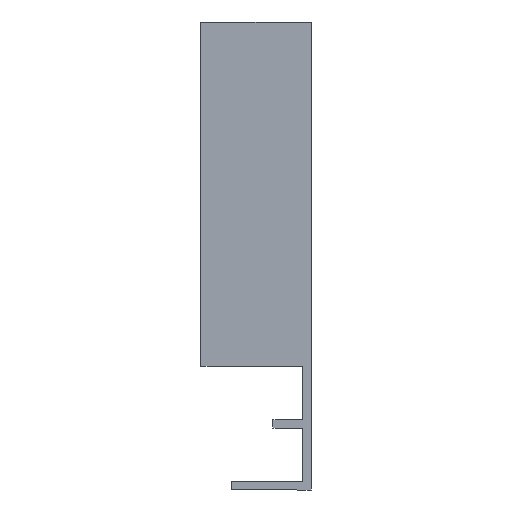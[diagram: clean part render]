
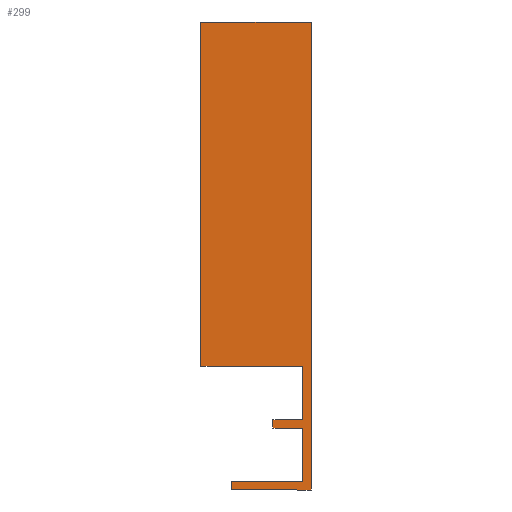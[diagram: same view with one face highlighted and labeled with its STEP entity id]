
A CAD part, left-side view. The second image highlights one B-rep face of the part: STEP entity #299.
In plain terms, the highlighted planar face has unit normal (-1, 0, 0).
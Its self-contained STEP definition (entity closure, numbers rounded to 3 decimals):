
#3 = VECTOR ( 'NONE', #389, 1000. ) ;
#5 = LINE ( 'NONE', #376, #3 ) ;
#12 = VECTOR ( 'NONE', #379, 1000. ) ;
#17 = LINE ( 'NONE', #375, #12 ) ;
#21 = VECTOR ( 'NONE', #368, 1000. ) ;
#22 = LINE ( 'NONE', #367, #21 ) ;
#23 = VECTOR ( 'NONE', #366, 1000. ) ;
#24 = LINE ( 'NONE', #365, #23 ) ;
#26 = LINE ( 'NONE', #357, #35 ) ;
#31 = VECTOR ( 'NONE', #356, 1000. ) ;
#32 = LINE ( 'NONE', #355, #31 ) ;
#33 = VECTOR ( 'NONE', #354, 1000. ) ;
#34 = LINE ( 'NONE', #353, #33 ) ;
#35 = VECTOR ( 'NONE', #364, 1000. ) ;
#36 = VECTOR ( 'NONE', #352, 1000. ) ;
#41 = LINE ( 'NONE', #348, #36 ) ;
#45 = VECTOR ( 'NONE', #342, 1000. ) ;
#51 = LINE ( 'NONE', #339, #45 ) ;
#68 = EDGE_LOOP ( 'NONE', ( #142, #113, #119, #118, #117, #111, #78, #79, #80, #81, #82, #83 ) ) ;
#78 = ORIENTED_EDGE ( 'NONE', *, *, #238, .T. ) ;
#79 = ORIENTED_EDGE ( 'NONE', *, *, #284, .T. ) ;
#80 = ORIENTED_EDGE ( 'NONE', *, *, #259, .T. ) ;
#81 = ORIENTED_EDGE ( 'NONE', *, *, #251, .T. ) ;
#82 = ORIENTED_EDGE ( 'NONE', *, *, #221, .T. ) ;
#83 = ORIENTED_EDGE ( 'NONE', *, *, #282, .T. ) ;
#111 = ORIENTED_EDGE ( 'NONE', *, *, #237, .T. ) ;
#113 = ORIENTED_EDGE ( 'NONE', *, *, #228, .T. ) ;
#117 = ORIENTED_EDGE ( 'NONE', *, *, #230, .T. ) ;
#118 = ORIENTED_EDGE ( 'NONE', *, *, #231, .T. ) ;
#119 = ORIENTED_EDGE ( 'NONE', *, *, #278, .T. ) ;
#142 = ORIENTED_EDGE ( 'NONE', *, *, #241, .T. ) ;
#177 = LINE ( 'NONE', #414, #178 ) ;
#178 = VECTOR ( 'NONE', #415, 1000. ) ;
#181 = LINE ( 'NONE', #418, #182 ) ;
#182 = VECTOR ( 'NONE', #419, 1000. ) ;
#185 = LINE ( 'NONE', #423, #186 ) ;
#186 = VECTOR ( 'NONE', #424, 1000. ) ;
#199 = FACE_OUTER_BOUND ( 'NONE', #68, .T. ) ;
#221 = EDGE_CURVE ( 'NONE', #332, #316, #51, .T. ) ;
#228 = EDGE_CURVE ( 'NONE', #334, #308, #41, .T. ) ;
#230 = EDGE_CURVE ( 'NONE', #306, #323, #34, .T. ) ;
#231 = EDGE_CURVE ( 'NONE', #330, #306, #32, .T. ) ;
#237 = EDGE_CURVE ( 'NONE', #323, #321, #26, .T. ) ;
#238 = EDGE_CURVE ( 'NONE', #321, #319, #24, .T. ) ;
#241 = EDGE_CURVE ( 'NONE', #336, #334, #22, .T. ) ;
#251 = EDGE_CURVE ( 'NONE', #313, #332, #17, .T. ) ;
#259 = EDGE_CURVE ( 'NONE', #318, #313, #5, .T. ) ;
#265 = AXIS2_PLACEMENT_3D ( 'NONE', #469, #475, #476 ) ;
#278 = EDGE_CURVE ( 'NONE', #308, #330, #177, .T. ) ;
#282 = EDGE_CURVE ( 'NONE', #316, #336, #181, .T. ) ;
#284 = EDGE_CURVE ( 'NONE', #319, #318, #185, .T. ) ;
#299 = ADVANCED_FACE ( 'NONE', ( #199 ), #466, .T. ) ;
#306 = VERTEX_POINT ( 'NONE', #485 ) ;
#308 = VERTEX_POINT ( 'NONE', #490 ) ;
#313 = VERTEX_POINT ( 'NONE', #493 ) ;
#316 = VERTEX_POINT ( 'NONE', #496 ) ;
#318 = VERTEX_POINT ( 'NONE', #497 ) ;
#319 = VERTEX_POINT ( 'NONE', #498 ) ;
#321 = VERTEX_POINT ( 'NONE', #500 ) ;
#323 = VERTEX_POINT ( 'NONE', #502 ) ;
#330 = VERTEX_POINT ( 'NONE', #509 ) ;
#332 = VERTEX_POINT ( 'NONE', #511 ) ;
#334 = VERTEX_POINT ( 'NONE', #513 ) ;
#336 = VERTEX_POINT ( 'NONE', #515 ) ;
#339 = CARTESIAN_POINT ( 'NONE',  ( -285.5, 0., -8.95 ) ) ;
#342 = DIRECTION ( 'NONE',  ( 0., -1., 0. ) ) ;
#348 = CARTESIAN_POINT ( 'NONE',  ( -285.5, 6., -16.7 ) ) ;
#352 = DIRECTION ( 'NONE',  ( 0., 0., -1. ) ) ;
#353 = CARTESIAN_POINT ( 'NONE',  ( -285.5, -5.5, 49.7 ) ) ;
#354 = DIRECTION ( 'NONE',  ( 0., 1., 0. ) ) ;
#355 = CARTESIAN_POINT ( 'NONE',  ( -285.5, -5.5, -17.9 ) ) ;
#356 = DIRECTION ( 'NONE',  ( 0., 0., 1. ) ) ;
#357 = CARTESIAN_POINT ( 'NONE',  ( -285.5, 10.4, 49.7 ) ) ;
#364 = DIRECTION ( 'NONE',  ( 0., 0., -1. ) ) ;
#365 = CARTESIAN_POINT ( 'NONE',  ( -285.5, 10.4, 0. ) ) ;
#366 = DIRECTION ( 'NONE',  ( 0., -1., 0. ) ) ;
#367 = CARTESIAN_POINT ( 'NONE',  ( -285.5, -4.3, -16.7 ) ) ;
#368 = DIRECTION ( 'NONE',  ( 0., 1., 0. ) ) ;
#375 = CARTESIAN_POINT ( 'NONE',  ( -285.5, 0., -7.75 ) ) ;
#376 = CARTESIAN_POINT ( 'NONE',  ( -285.5, -4.3, -7.75 ) ) ;
#379 = DIRECTION ( 'NONE',  ( 0., 0., -1. ) ) ;
#389 = DIRECTION ( 'NONE',  ( 0., 1., 0. ) ) ;
#414 = CARTESIAN_POINT ( 'NONE',  ( -285.5, 6., -17.9 ) ) ;
#415 = DIRECTION ( 'NONE',  ( 0., -1., 0. ) ) ;
#418 = CARTESIAN_POINT ( 'NONE',  ( -285.5, -4.3, -8.95 ) ) ;
#419 = DIRECTION ( 'NONE',  ( 0., 0., -1. ) ) ;
#423 = CARTESIAN_POINT ( 'NONE',  ( -285.5, -4.3, 0. ) ) ;
#424 = DIRECTION ( 'NONE',  ( 0., 0., -1. ) ) ;
#466 = PLANE ( 'NONE',  #265 ) ;
#469 = CARTESIAN_POINT ( 'NONE',  ( -285.5, 6., -16.7 ) ) ;
#475 = DIRECTION ( 'NONE',  ( -1., 0., 0. ) ) ;
#476 = DIRECTION ( 'NONE',  ( 0., -1., 0. ) ) ;
#485 = CARTESIAN_POINT ( 'NONE',  ( -285.5, -5.5, 49.7 ) ) ;
#490 = CARTESIAN_POINT ( 'NONE',  ( -285.5, 6., -17.9 ) ) ;
#493 = CARTESIAN_POINT ( 'NONE',  ( -285.5, 0., -7.75 ) ) ;
#496 = CARTESIAN_POINT ( 'NONE',  ( -285.5, -4.3, -8.95 ) ) ;
#497 = CARTESIAN_POINT ( 'NONE',  ( -285.5, -4.3, -7.75 ) ) ;
#498 = CARTESIAN_POINT ( 'NONE',  ( -285.5, -4.3, 0. ) ) ;
#500 = CARTESIAN_POINT ( 'NONE',  ( -285.5, 10.4, 0. ) ) ;
#502 = CARTESIAN_POINT ( 'NONE',  ( -285.5, 10.4, 49.7 ) ) ;
#509 = CARTESIAN_POINT ( 'NONE',  ( -285.5, -5.5, -17.9 ) ) ;
#511 = CARTESIAN_POINT ( 'NONE',  ( -285.5, 0., -8.95 ) ) ;
#513 = CARTESIAN_POINT ( 'NONE',  ( -285.5, 6., -16.7 ) ) ;
#515 = CARTESIAN_POINT ( 'NONE',  ( -285.5, -4.3, -16.7 ) ) ;
